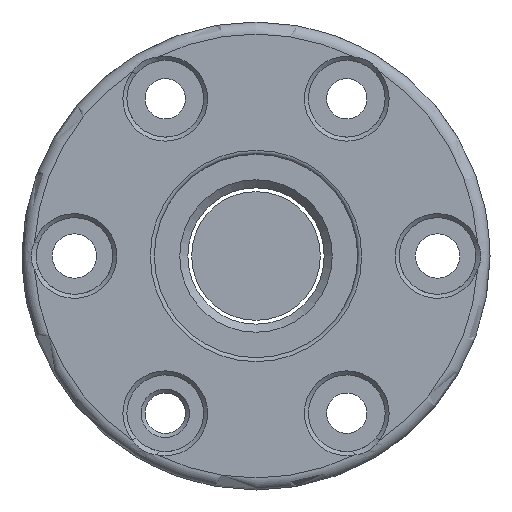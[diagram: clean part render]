
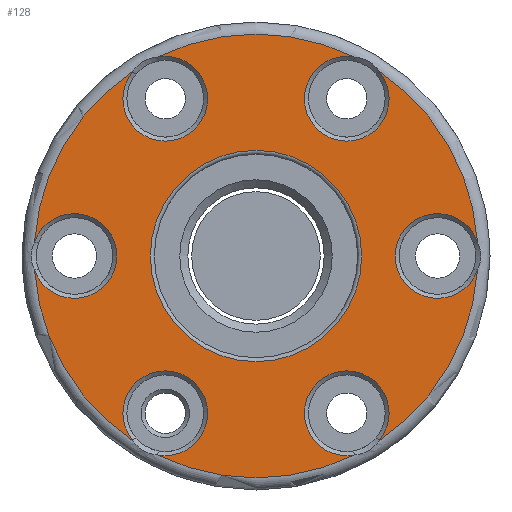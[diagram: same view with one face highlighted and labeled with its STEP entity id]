
A CAD part, front view. The second image highlights one B-rep face of the part: STEP entity #128.
In plain terms, the highlighted planar face has unit normal (0, -1, 0).
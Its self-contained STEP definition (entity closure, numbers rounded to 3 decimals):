
#100=PLANE('',#806);
#128=ADVANCED_FACE('',(#212,#213),#100,.T.);
#212=FACE_BOUND('',#304,.T.);
#213=FACE_BOUND('',#305,.T.);
#304=EDGE_LOOP('',(#408,#409,#410,#411,#412,#413,#414,#415,#416,#417,#418,
#419));
#305=EDGE_LOOP('',(#420));
#408=ORIENTED_EDGE('',*,*,#640,.T.);
#409=ORIENTED_EDGE('',*,*,#641,.T.);
#410=ORIENTED_EDGE('',*,*,#642,.T.);
#411=ORIENTED_EDGE('',*,*,#643,.T.);
#412=ORIENTED_EDGE('',*,*,#644,.T.);
#413=ORIENTED_EDGE('',*,*,#645,.T.);
#414=ORIENTED_EDGE('',*,*,#646,.T.);
#415=ORIENTED_EDGE('',*,*,#647,.T.);
#416=ORIENTED_EDGE('',*,*,#648,.T.);
#417=ORIENTED_EDGE('',*,*,#649,.T.);
#418=ORIENTED_EDGE('',*,*,#650,.T.);
#419=ORIENTED_EDGE('',*,*,#651,.T.);
#420=ORIENTED_EDGE('',*,*,#652,.T.);
#574=VERTEX_POINT('',#1145);
#575=VERTEX_POINT('',#1146);
#576=VERTEX_POINT('',#1148);
#577=VERTEX_POINT('',#1150);
#578=VERTEX_POINT('',#1152);
#579=VERTEX_POINT('',#1154);
#580=VERTEX_POINT('',#1156);
#581=VERTEX_POINT('',#1158);
#582=VERTEX_POINT('',#1160);
#583=VERTEX_POINT('',#1162);
#584=VERTEX_POINT('',#1164);
#585=VERTEX_POINT('',#1166);
#586=VERTEX_POINT('',#1169);
#640=EDGE_CURVE('',#574,#575,#724,.T.);
#641=EDGE_CURVE('',#575,#576,#725,.T.);
#642=EDGE_CURVE('',#576,#577,#726,.T.);
#643=EDGE_CURVE('',#577,#578,#727,.T.);
#644=EDGE_CURVE('',#578,#579,#728,.T.);
#645=EDGE_CURVE('',#579,#580,#729,.T.);
#646=EDGE_CURVE('',#580,#581,#730,.T.);
#647=EDGE_CURVE('',#581,#582,#731,.T.);
#648=EDGE_CURVE('',#582,#583,#732,.T.);
#649=EDGE_CURVE('',#583,#584,#733,.T.);
#650=EDGE_CURVE('',#584,#585,#734,.T.);
#651=EDGE_CURVE('',#585,#574,#735,.T.);
#652=EDGE_CURVE('',#586,#586,#736,.T.);
#724=CIRCLE('',#793,27.5);
#725=CIRCLE('',#794,5.25);
#726=CIRCLE('',#795,27.5);
#727=CIRCLE('',#796,5.25);
#728=CIRCLE('',#797,27.5);
#729=CIRCLE('',#798,5.25);
#730=CIRCLE('',#799,27.5);
#731=CIRCLE('',#800,5.25);
#732=CIRCLE('',#801,27.5);
#733=CIRCLE('',#802,5.25);
#734=CIRCLE('',#803,27.5);
#735=CIRCLE('',#804,5.25);
#736=CIRCLE('',#805,13.1);
#793=AXIS2_PLACEMENT_3D('',#1144,#931,#932);
#794=AXIS2_PLACEMENT_3D('',#1147,#933,#934);
#795=AXIS2_PLACEMENT_3D('',#1149,#935,#936);
#796=AXIS2_PLACEMENT_3D('',#1151,#937,#938);
#797=AXIS2_PLACEMENT_3D('',#1153,#939,#940);
#798=AXIS2_PLACEMENT_3D('',#1155,#941,#942);
#799=AXIS2_PLACEMENT_3D('',#1157,#943,#944);
#800=AXIS2_PLACEMENT_3D('',#1159,#945,#946);
#801=AXIS2_PLACEMENT_3D('',#1161,#947,#948);
#802=AXIS2_PLACEMENT_3D('',#1163,#949,#950);
#803=AXIS2_PLACEMENT_3D('',#1165,#951,#952);
#804=AXIS2_PLACEMENT_3D('',#1167,#953,#954);
#805=AXIS2_PLACEMENT_3D('',#1168,#955,#956);
#806=AXIS2_PLACEMENT_3D('',#1170,#957,#958);
#931=DIRECTION('',(0.,-1.,0.));
#932=DIRECTION('',(0.,0.,-1.));
#933=DIRECTION('',(0.,1.,0.));
#934=DIRECTION('',(0.,0.,-1.));
#935=DIRECTION('',(0.,-1.,0.));
#936=DIRECTION('',(0.,0.,-1.));
#937=DIRECTION('',(0.,1.,0.));
#938=DIRECTION('',(0.,0.,-1.));
#939=DIRECTION('',(0.,-1.,0.));
#940=DIRECTION('',(0.,0.,-1.));
#941=DIRECTION('',(0.,1.,0.));
#942=DIRECTION('',(0.,0.,-1.));
#943=DIRECTION('',(0.,-1.,0.));
#944=DIRECTION('',(0.,0.,-1.));
#945=DIRECTION('',(0.,1.,0.));
#946=DIRECTION('',(0.,0.,-1.));
#947=DIRECTION('',(0.,-1.,0.));
#948=DIRECTION('',(0.,0.,-1.));
#949=DIRECTION('',(0.,1.,0.));
#950=DIRECTION('',(0.,0.,-1.));
#951=DIRECTION('',(0.,-1.,0.));
#952=DIRECTION('',(0.,0.,-1.));
#953=DIRECTION('',(0.,1.,0.));
#954=DIRECTION('',(0.,0.,-1.));
#955=DIRECTION('',(0.,1.,0.));
#956=DIRECTION('',(0.,0.,-1.));
#957=DIRECTION('',(0.,-1.,0.));
#958=DIRECTION('',(0.,0.,-1.));
#1144=CARTESIAN_POINT('',(0.,0.,0.));
#1145=CARTESIAN_POINT('',(12.19,0.,24.651));
#1146=CARTESIAN_POINT('',(-12.19,0.,24.651));
#1147=CARTESIAN_POINT('',(-11.25,0.,19.486));
#1148=CARTESIAN_POINT('',(-15.253,0.,22.882));
#1149=CARTESIAN_POINT('',(0.,0.,0.));
#1150=CARTESIAN_POINT('',(-27.443,0.,1.769));
#1151=CARTESIAN_POINT('',(-22.5,0.,0.));
#1152=CARTESIAN_POINT('',(-27.443,0.,-1.769));
#1153=CARTESIAN_POINT('',(0.,0.,0.));
#1154=CARTESIAN_POINT('',(-15.253,0.,-22.882));
#1155=CARTESIAN_POINT('',(-11.25,0.,-19.486));
#1156=CARTESIAN_POINT('',(-12.19,0.,-24.651));
#1157=CARTESIAN_POINT('',(0.,0.,0.));
#1158=CARTESIAN_POINT('',(12.19,0.,-24.651));
#1159=CARTESIAN_POINT('',(11.25,0.,-19.486));
#1160=CARTESIAN_POINT('',(15.253,0.,-22.882));
#1161=CARTESIAN_POINT('',(0.,0.,0.));
#1162=CARTESIAN_POINT('',(27.443,0.,-1.769));
#1163=CARTESIAN_POINT('',(22.5,0.,0.));
#1164=CARTESIAN_POINT('',(27.443,0.,1.769));
#1165=CARTESIAN_POINT('',(0.,0.,0.));
#1166=CARTESIAN_POINT('',(15.253,0.,22.882));
#1167=CARTESIAN_POINT('',(11.25,0.,19.486));
#1168=CARTESIAN_POINT('',(0.,0.,0.));
#1169=CARTESIAN_POINT('',(0.,0.,-13.1));
#1170=CARTESIAN_POINT('',(0.,0.,0.));
